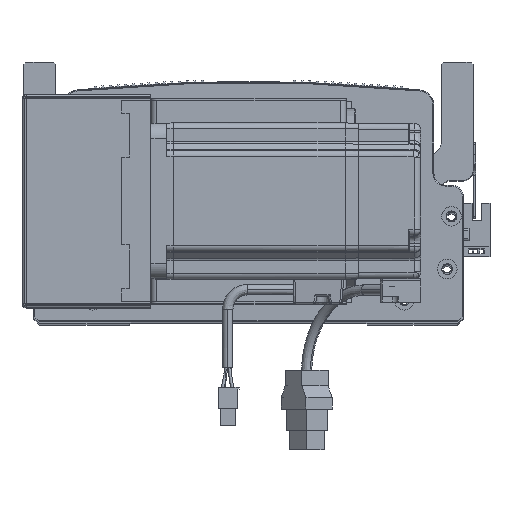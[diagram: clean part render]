
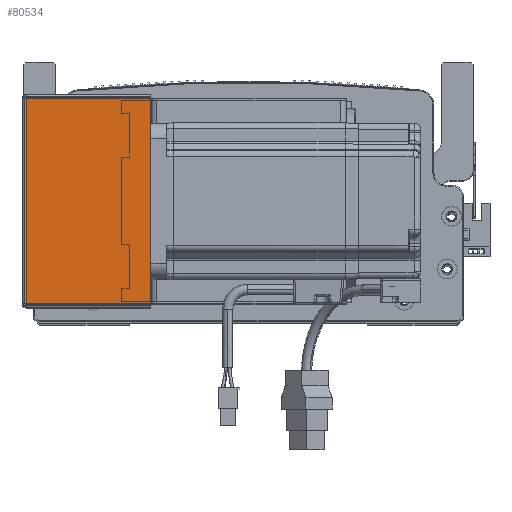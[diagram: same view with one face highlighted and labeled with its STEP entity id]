
A CAD part, top view. The second image highlights one B-rep face of the part: STEP entity #80534.
In plain terms, the highlighted planar face has unit normal (0, 0, 1) as drawn and (0, 0, -1) by its records, which use the part's own axes.
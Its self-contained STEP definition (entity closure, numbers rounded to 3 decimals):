
#1444 = VECTOR ( 'NONE', #61968, 1000. ) ;
#3078 = PLANE ( 'NONE',  #41640 ) ;
#3640 = DIRECTION ( 'NONE',  ( 0., 0., 1. ) ) ;
#6134 = VERTEX_POINT ( 'NONE', #79993 ) ;
#8282 = VECTOR ( 'NONE', #8970, 1000. ) ;
#8498 = VERTEX_POINT ( 'NONE', #19419 ) ;
#8970 = DIRECTION ( 'NONE',  ( 0., -1., 0. ) ) ;
#15166 = VERTEX_POINT ( 'NONE', #49656 ) ;
#16538 = EDGE_CURVE ( 'NONE', #15166, #6134, #75275, .T. ) ;
#19097 = EDGE_CURVE ( 'NONE', #51973, #15166, #43406, .T. ) ;
#19419 = CARTESIAN_POINT ( 'NONE',  ( 0.737, 0.707, -205.5 ) ) ;
#19816 = FACE_OUTER_BOUND ( 'NONE', #66011, .T. ) ;
#20359 = ORIENTED_EDGE ( 'NONE', *, *, #73485, .F. ) ;
#21121 = CARTESIAN_POINT ( 'NONE',  ( 64.5, 0., -205.5 ) ) ;
#28928 = VECTOR ( 'NONE', #55390, 1000. ) ;
#30082 = CARTESIAN_POINT ( 'NONE',  ( 0., 0.707, -205.5 ) ) ;
#31774 = ORIENTED_EDGE ( 'NONE', *, *, #19097, .T. ) ;
#32049 = LINE ( 'NONE', #42760, #1444 ) ;
#35780 = EDGE_CURVE ( 'NONE', #51973, #8498, #32049, .T. ) ;
#41395 = CARTESIAN_POINT ( 'NONE',  ( 0., 0., -205.5 ) ) ;
#41640 = AXIS2_PLACEMENT_3D ( 'NONE', #41395, #3640, #67241 ) ;
#42760 = CARTESIAN_POINT ( 'NONE',  ( 0.737, 0., -205.5 ) ) ;
#43406 = LINE ( 'NONE', #50340, #73891 ) ;
#43411 = CARTESIAN_POINT ( 'NONE',  ( 0.737, 105.293, -205.5 ) ) ;
#49656 = CARTESIAN_POINT ( 'NONE',  ( 64.5, 105.293, -205.5 ) ) ;
#50340 = CARTESIAN_POINT ( 'NONE',  ( 0., 105.293, -205.5 ) ) ;
#51973 = VERTEX_POINT ( 'NONE', #43411 ) ;
#55390 = DIRECTION ( 'NONE',  ( 1., 0., 0. ) ) ;
#61968 = DIRECTION ( 'NONE',  ( 0., -1., 0. ) ) ;
#66011 = EDGE_LOOP ( 'NONE', ( #78454, #31774, #73627, #20359 ) ) ;
#67241 = DIRECTION ( 'NONE',  ( 1., 0., 0. ) ) ;
#73485 = EDGE_CURVE ( 'NONE', #8498, #6134, #79137, .T. ) ;
#73627 = ORIENTED_EDGE ( 'NONE', *, *, #16538, .T. ) ;
#73891 = VECTOR ( 'NONE', #74576, 1000. ) ;
#74576 = DIRECTION ( 'NONE',  ( 1., 0., 0. ) ) ;
#75275 = LINE ( 'NONE', #21121, #8282 ) ;
#78454 = ORIENTED_EDGE ( 'NONE', *, *, #35780, .F. ) ;
#79137 = LINE ( 'NONE', #30082, #28928 ) ;
#79993 = CARTESIAN_POINT ( 'NONE',  ( 64.5, 0.707, -205.5 ) ) ;
#80534 = ADVANCED_FACE ( 'NONE', ( #19816 ), #3078, .F. ) ;
